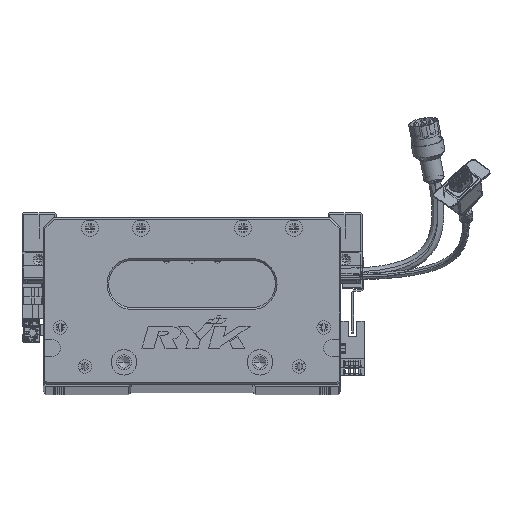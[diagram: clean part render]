
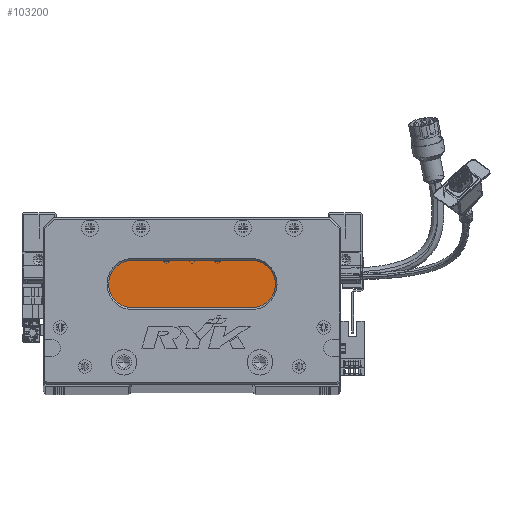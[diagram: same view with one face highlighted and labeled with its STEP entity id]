
A CAD part, top view. The second image highlights one B-rep face of the part: STEP entity #103200.
In plain terms, the highlighted planar face has unit normal (0, 0, 1) as drawn and (0, 0, -1) by its records, which use the part's own axes.
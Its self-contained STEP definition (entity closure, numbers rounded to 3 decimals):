
#1828 = EDGE_CURVE ( 'NONE', #68275, #75414, #5057, .T. ) ;
#5057 = LINE ( 'NONE', #105910, #46343 ) ;
#12601 = DIRECTION ( 'NONE',  ( 0., 0., -1. ) ) ;
#14193 = VERTEX_POINT ( 'NONE', #35496 ) ;
#15355 = AXIS2_PLACEMENT_3D ( 'NONE', #115431, #30700, #41287 ) ;
#16015 = EDGE_CURVE ( 'NONE', #108783, #68811, #128390, .T. ) ;
#17096 = CIRCLE ( 'NONE', #15355, 14. ) ;
#17859 = CARTESIAN_POINT ( 'NONE',  ( 122.5, 45., 18. ) ) ;
#24278 = DIRECTION ( 'NONE',  ( 0., 0., -1. ) ) ;
#25840 = FACE_OUTER_BOUND ( 'NONE', #89140, .T. ) ;
#30700 = DIRECTION ( 'NONE',  ( 0., 0., -1. ) ) ;
#35496 = CARTESIAN_POINT ( 'NONE',  ( 122.5, 45., 18. ) ) ;
#36432 = EDGE_CURVE ( 'NONE', #75414, #14193, #17096, .T. ) ;
#41287 = DIRECTION ( 'NONE',  ( -1., 0., 0. ) ) ;
#42572 = ORIENTED_EDGE ( 'NONE', *, *, #36432, .T. ) ;
#43040 = PLANE ( 'NONE',  #134650 ) ;
#46343 = VECTOR ( 'NONE', #64512, 1000. ) ;
#46401 = DIRECTION ( 'NONE',  ( -1., 0., 0. ) ) ;
#47335 = EDGE_CURVE ( 'NONE', #68811, #68275, #76637, .T. ) ;
#52733 = ORIENTED_EDGE ( 'NONE', *, *, #47335, .T. ) ;
#55431 = CARTESIAN_POINT ( 'NONE',  ( 38.5, 59., 18. ) ) ;
#63920 = CARTESIAN_POINT ( 'NONE',  ( 52.5, 59., 18. ) ) ;
#64512 = DIRECTION ( 'NONE',  ( 1., 0., 0. ) ) ;
#65730 = CARTESIAN_POINT ( 'NONE',  ( 52.5, 73., 18. ) ) ;
#68275 = VERTEX_POINT ( 'NONE', #65730 ) ;
#68811 = VERTEX_POINT ( 'NONE', #55431 ) ;
#75414 = VERTEX_POINT ( 'NONE', #106208 ) ;
#76333 = AXIS2_PLACEMENT_3D ( 'NONE', #63920, #24278, #46401 ) ;
#76637 = CIRCLE ( 'NONE', #124982, 14. ) ;
#79670 = DIRECTION ( 'NONE',  ( -1., 0., 0. ) ) ;
#80868 = DIRECTION ( 'NONE',  ( -1., 0., 0. ) ) ;
#86359 = DIRECTION ( 'NONE',  ( -1., 0., 0. ) ) ;
#86909 = VECTOR ( 'NONE', #79670, 1000. ) ;
#89140 = EDGE_LOOP ( 'NONE', ( #42572, #134894, #105522, #52733, #122525 ) ) ;
#90498 = CARTESIAN_POINT ( 'NONE',  ( 52.5, 59., 18. ) ) ;
#103200 = ADVANCED_FACE ( 'NONE', ( #25840 ), #43040, .T. ) ;
#105522 = ORIENTED_EDGE ( 'NONE', *, *, #16015, .T. ) ;
#105910 = CARTESIAN_POINT ( 'NONE',  ( 122.5, 73., 18. ) ) ;
#106208 = CARTESIAN_POINT ( 'NONE',  ( 122.5, 73., 18. ) ) ;
#108783 = VERTEX_POINT ( 'NONE', #131336 ) ;
#109208 = EDGE_CURVE ( 'NONE', #14193, #108783, #114861, .T. ) ;
#114861 = LINE ( 'NONE', #17859, #86909 ) ;
#115431 = CARTESIAN_POINT ( 'NONE',  ( 122.5, 59., 18. ) ) ;
#116700 = CARTESIAN_POINT ( 'NONE',  ( 122.5, 59., 18. ) ) ;
#122525 = ORIENTED_EDGE ( 'NONE', *, *, #1828, .T. ) ;
#124982 = AXIS2_PLACEMENT_3D ( 'NONE', #90498, #133301, #80868 ) ;
#128390 = CIRCLE ( 'NONE', #76333, 14. ) ;
#131336 = CARTESIAN_POINT ( 'NONE',  ( 52.5, 45., 18. ) ) ;
#133301 = DIRECTION ( 'NONE',  ( 0., 0., -1. ) ) ;
#134650 = AXIS2_PLACEMENT_3D ( 'NONE', #116700, #12601, #86359 ) ;
#134894 = ORIENTED_EDGE ( 'NONE', *, *, #109208, .T. ) ;
